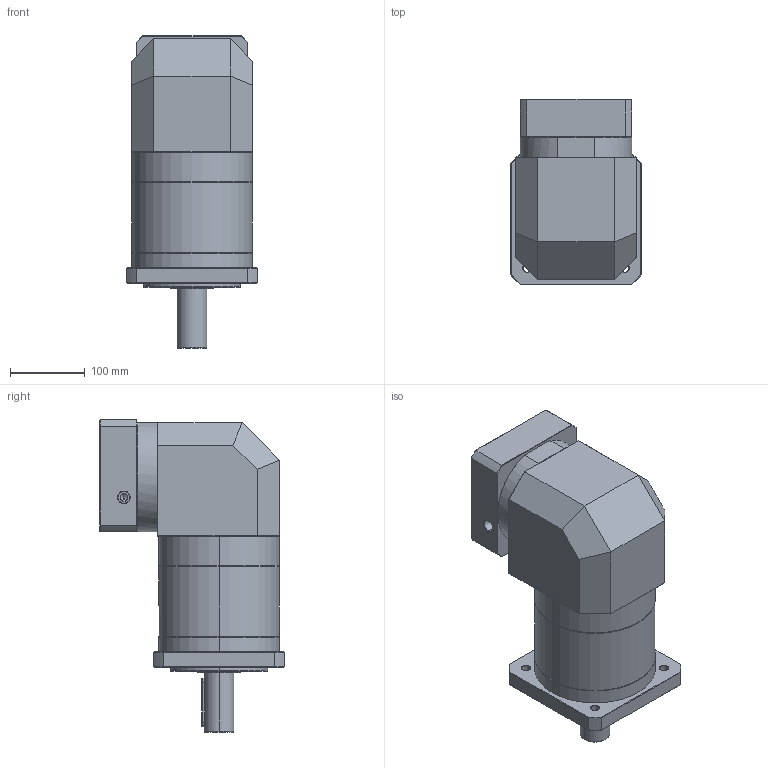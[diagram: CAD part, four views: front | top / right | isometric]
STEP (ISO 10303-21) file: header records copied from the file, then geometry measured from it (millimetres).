
FILE_DESCRIPTION (( 'STEP AP214' ), '1' );
FILE_NAME ('ZFR160A-D40-L3-P2-32-130-165-M10.step', '2023-09-03T08:59:23', ( '' ), ( '' ), 'SwSTEP 2.0', 'SolidWorks 2016', '' );
FILE_SCHEMA (( 'AUTOMOTIVE_DESIGN' ));
Length unit declared in the file: millimetre
Products named in the file (1): ZFR160A-D40-L3-P2-32-130-165-M10
Bounding box: 175 x 247.5 x 418.7 mm (x, y, z)
Volume: 8271985.5 mm3; surface area: 481189 mm2
Topology: 6 solids, 6 shells, 2210 faces, 5840 edges, 3737 vertices
Faces by surface type: plane 1048, cylinder 416, bspline 401, cone 310, torus 35
Entity records: 127051 total; most frequent: CARTESIAN_POINT 53346, ORIENTED_EDGE 11620, DIRECTION 8454, EDGE_CURVE 5810, VERTEX_POINT 3737, LINE 3096, VECTOR 3096, AXIS2_PLACEMENT_3D 2679
